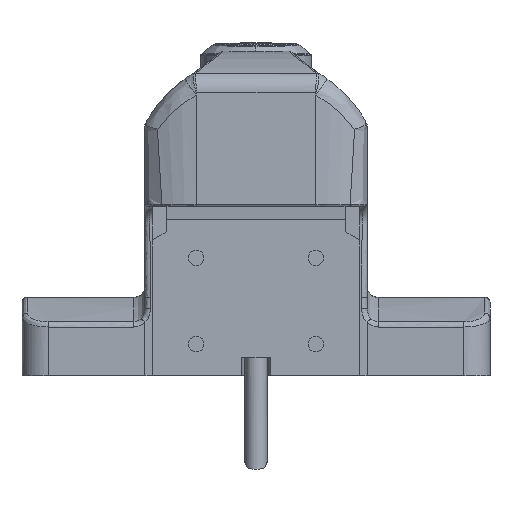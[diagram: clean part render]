
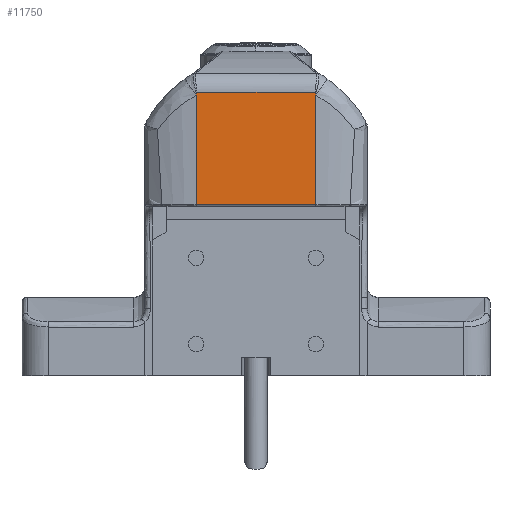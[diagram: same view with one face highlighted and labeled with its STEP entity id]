
A CAD part, left-side view. The second image highlights one B-rep face of the part: STEP entity #11750.
In plain terms, the highlighted planar face has unit normal (-1, 0, 0).
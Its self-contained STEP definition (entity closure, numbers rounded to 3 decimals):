
#271 = ORIENTED_EDGE ( 'NONE', *, *, #284, .F. ) ;
#284 = EDGE_CURVE ( 'NONE', #4632, #7833, #12520, .T. ) ;
#380 = CARTESIAN_POINT ( 'NONE',  ( -26., -16., 1.5 ) ) ;
#451 = CARTESIAN_POINT ( 'NONE',  ( -26., -16., 30.648 ) ) ;
#763 = CARTESIAN_POINT ( 'NONE',  ( -26., 15.995, 30.781 ) ) ;
#773 = ORIENTED_EDGE ( 'NONE', *, *, #16405, .T. ) ;
#1118 = VECTOR ( 'NONE', #4313, 1000. ) ;
#1697 = ORIENTED_EDGE ( 'NONE', *, *, #20659, .T. ) ;
#2127 = CARTESIAN_POINT ( 'NONE',  ( -26., 16., 30.648 ) ) ;
#2133 = CARTESIAN_POINT ( 'NONE',  ( -26., 62.541, 31.5 ) ) ;
#2374 = CARTESIAN_POINT ( 'NONE',  ( -26., 15.977, 30.928 ) ) ;
#2410 = VERTEX_POINT ( 'NONE', #451 ) ;
#2452 = AXIS2_PLACEMENT_3D ( 'NONE', #12957, #11261, #9538 ) ;
#2870 = EDGE_CURVE ( 'NONE', #12112, #2410, #21076, .T. ) ;
#3552 = CARTESIAN_POINT ( 'NONE',  ( -26., 15.901, 31.308 ) ) ;
#3757 = CARTESIAN_POINT ( 'NONE',  ( -26., 15.946, 31.089 ) ) ;
#3848 = VERTEX_POINT ( 'NONE', #16630 ) ;
#3898 = ORIENTED_EDGE ( 'NONE', *, *, #2870, .F. ) ;
#3966 = CARTESIAN_POINT ( 'NONE',  ( -26., 15.877, 31.429 ) ) ;
#3984 = EDGE_CURVE ( 'NONE', #3848, #7833, #8246, .T. ) ;
#4313 = DIRECTION ( 'NONE',  ( 0., -1., 0. ) ) ;
#4632 = VERTEX_POINT ( 'NONE', #8680 ) ;
#5356 = CARTESIAN_POINT ( 'NONE',  ( -26., 15.946, 31.09 ) ) ;
#5476 = CARTESIAN_POINT ( 'NONE',  ( -26., -15.866, 31.5 ) ) ;
#5566 = CARTESIAN_POINT ( 'NONE',  ( -26., 15.945, 31.094 ) ) ;
#5812 = CARTESIAN_POINT ( 'NONE',  ( -26., 16., 1.5 ) ) ;
#6607 = CARTESIAN_POINT ( 'NONE',  ( -26., -15.866, 31.5 ) ) ;
#6840 = CARTESIAN_POINT ( 'NONE',  ( -26., 15.946, 31.091 ) ) ;
#6919 = CARTESIAN_POINT ( 'NONE',  ( -26., -15.919, 31.231 ) ) ;
#7833 = VERTEX_POINT ( 'NONE', #2127 ) ;
#8203 = CARTESIAN_POINT ( 'NONE',  ( -26., -15.973, 30.947 ) ) ;
#8246 = B_SPLINE_CURVE_WITH_KNOTS ( 'NONE', 3,
 ( #16709, #18302, #3966, #17018, #18514, #8447, #3552, #11652, #15204, #15414, #14997, #20013, #5566, #6840, #13689, #3757, #13800, #5356, #2374, #763, #18409 ),
 .UNSPECIFIED., .F., .F.,
 ( 4, 1, 1, 1, 1, 2, 2, 1, 1, 1, 1, 1, 2, 2, 4 ),
 ( 0., 0.125, 0.188, 0.219, 0.234, 0.242, 0.25, 0.375, 0.438, 0.469, 0.484, 0.492, 0.496, 0.5, 1. ),
 .UNSPECIFIED. ) ;
#8447 = CARTESIAN_POINT ( 'NONE',  ( -26., 15.899, 31.316 ) ) ;
#8680 = CARTESIAN_POINT ( 'NONE',  ( -26., 16., 1.5 ) ) ;
#8827 = DIRECTION ( 'NONE',  ( 0., -1., 0. ) ) ;
#8999 = LINE ( 'NONE', #5812, #1118 ) ;
#9538 = DIRECTION ( 'NONE',  ( 0., 0., -1. ) ) ;
#10729 = EDGE_LOOP ( 'NONE', ( #20615, #17075, #271, #773, #1697, #3898 ) ) ;
#11027 = CARTESIAN_POINT ( 'NONE',  ( -26., -16., 38.163 ) ) ;
#11261 = DIRECTION ( 'NONE',  ( 1., 0., 0. ) ) ;
#11652 = CARTESIAN_POINT ( 'NONE',  ( -26., 15.902, 31.303 ) ) ;
#11750 = ADVANCED_FACE ( 'NONE', ( #19402 ), #16514, .F. ) ;
#12112 = VERTEX_POINT ( 'NONE', #5476 ) ;
#12520 = LINE ( 'NONE', #20984, #14803 ) ;
#12837 = DIRECTION ( 'NONE',  ( 0., 0., 1. ) ) ;
#12957 = CARTESIAN_POINT ( 'NONE',  ( -26., 16., 1. ) ) ;
#13689 = CARTESIAN_POINT ( 'NONE',  ( -26., 15.946, 31.09 ) ) ;
#13800 = CARTESIAN_POINT ( 'NONE',  ( -26., 15.946, 31.089 ) ) ;
#14248 = LINE ( 'NONE', #11027, #14441 ) ;
#14441 = VECTOR ( 'NONE', #12837, 1000. ) ;
#14803 = VECTOR ( 'NONE', #15974, 1000. ) ;
#14997 = CARTESIAN_POINT ( 'NONE',  ( -26., 15.933, 31.153 ) ) ;
#15204 = CARTESIAN_POINT ( 'NONE',  ( -26., 15.902, 31.302 ) ) ;
#15414 = CARTESIAN_POINT ( 'NONE',  ( -26., 15.917, 31.23 ) ) ;
#15974 = DIRECTION ( 'NONE',  ( 0., 0., 1. ) ) ;
#16361 = CARTESIAN_POINT ( 'NONE',  ( -26., -15.885, 31.367 ) ) ;
#16405 = EDGE_CURVE ( 'NONE', #4632, #18731, #8999, .T. ) ;
#16468 = CARTESIAN_POINT ( 'NONE',  ( -26., -16., 30.648 ) ) ;
#16514 = PLANE ( 'NONE',  #2452 ) ;
#16630 = CARTESIAN_POINT ( 'NONE',  ( -26., 15.866, 31.5 ) ) ;
#16709 = CARTESIAN_POINT ( 'NONE',  ( -26., 15.866, 31.5 ) ) ;
#16779 = LINE ( 'NONE', #2133, #16826 ) ;
#16826 = VECTOR ( 'NONE', #8827, 1000. ) ;
#17018 = CARTESIAN_POINT ( 'NONE',  ( -26., 15.889, 31.367 ) ) ;
#17075 = ORIENTED_EDGE ( 'NONE', *, *, #3984, .T. ) ;
#18302 = CARTESIAN_POINT ( 'NONE',  ( -26., 15.87, 31.474 ) ) ;
#18409 = CARTESIAN_POINT ( 'NONE',  ( -26., 16., 30.648 ) ) ;
#18514 = CARTESIAN_POINT ( 'NONE',  ( -26., 15.895, 31.333 ) ) ;
#18731 = VERTEX_POINT ( 'NONE', #380 ) ;
#19402 = FACE_OUTER_BOUND ( 'NONE', #10729, .T. ) ;
#19671 = CARTESIAN_POINT ( 'NONE',  ( -26., -15.995, 30.8 ) ) ;
#20013 = CARTESIAN_POINT ( 'NONE',  ( -26., 15.942, 31.107 ) ) ;
#20241 = EDGE_CURVE ( 'NONE', #3848, #12112, #16779, .T. ) ;
#20615 = ORIENTED_EDGE ( 'NONE', *, *, #20241, .F. ) ;
#20659 = EDGE_CURVE ( 'NONE', #18731, #2410, #14248, .T. ) ;
#20984 = CARTESIAN_POINT ( 'NONE',  ( -26., 16., 38.163 ) ) ;
#21076 = B_SPLINE_CURVE_WITH_KNOTS ( 'NONE', 3,
 ( #6607, #16361, #6919, #8203, #19671, #16468 ),
 .UNSPECIFIED., .F., .F.,
 ( 4, 2, 4 ),
 ( 0., 0.5, 1. ),
 .UNSPECIFIED. ) ;
